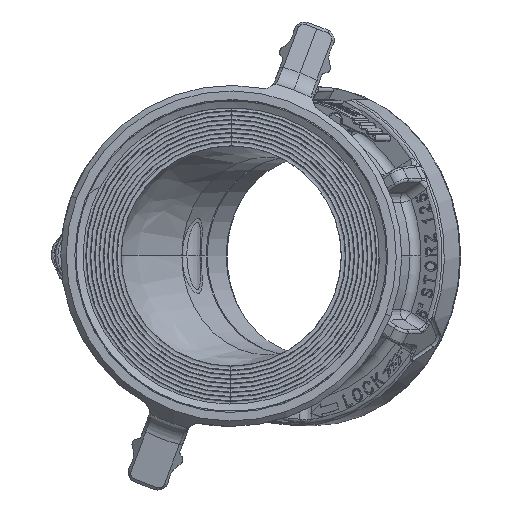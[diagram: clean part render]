
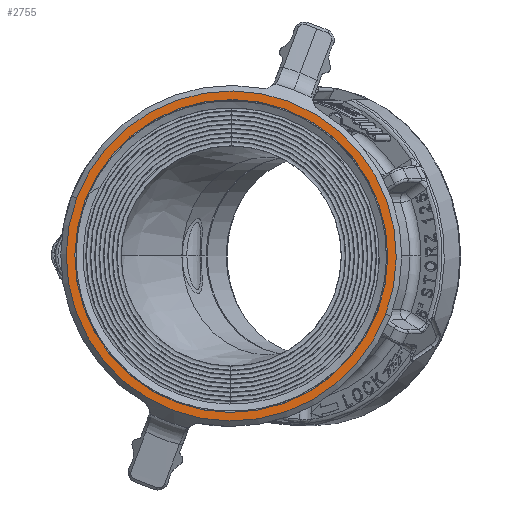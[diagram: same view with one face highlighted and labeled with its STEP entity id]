
A CAD part, left-side view. The second image highlights one B-rep face of the part: STEP entity #2755.
In plain terms, the highlighted planar face has unit normal (-1, 0, 0).
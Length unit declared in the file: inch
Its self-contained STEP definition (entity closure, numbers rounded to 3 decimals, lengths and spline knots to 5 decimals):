
#2755 = ADVANCED_FACE ( 'NONE', ( #75872, #75878 ), #13182, .F. ) ;
#5798 = CARTESIAN_POINT ( 'NONE',  ( -2.97918, 1.25303, -3.32685 ) ) ;
#5825 = CARTESIAN_POINT ( 'NONE',  ( -2.97918, -3.50934, -1.32176 ) ) ;
#5852 = CARTESIAN_POINT ( 'NONE',  ( -2.97918, 3.50934, 1.32176 ) ) ;
#5873 = CARTESIAN_POINT ( 'NONE',  ( -2.97918, -1.25303, 3.32685 ) ) ;
#9366 = CIRCLE ( 'NONE', #14786, 3.75 ) ;
#9393 = CIRCLE ( 'NONE', #14790, 3.555 ) ;
#13176 = CARTESIAN_POINT ( 'NONE',  ( -2.97918, -2.10977, 3.54464 ) ) ;
#13182 = PLANE ( 'NONE',  #52522 ) ;
#13185 = DIRECTION ( 'NONE',  ( 1., 0., 0. ) ) ;
#13187 = DIRECTION ( 'NONE',  ( 0., -0.352, 0.936 ) ) ;
#14702 = AXIS2_PLACEMENT_3D ( 'NONE', #53933, #53934, #53935 ) ;
#14703 = AXIS2_PLACEMENT_3D ( 'NONE', #53937, #53938, #53939 ) ;
#14786 = AXIS2_PLACEMENT_3D ( 'NONE', #18508, #18509, #18510 ) ;
#14790 = AXIS2_PLACEMENT_3D ( 'NONE', #18557, #18558, #18559 ) ;
#16223 = CIRCLE ( 'NONE', #14702, 3.555 ) ;
#16224 = CIRCLE ( 'NONE', #14703, 3.75 ) ;
#18508 = CARTESIAN_POINT ( 'NONE',  ( -2.97918, 0., 0. ) ) ;
#18509 = DIRECTION ( 'NONE',  ( 1., 0., 0. ) ) ;
#18510 = DIRECTION ( 'NONE',  ( 0., -0.936, -0.352 ) ) ;
#18557 = CARTESIAN_POINT ( 'NONE',  ( -2.97918, 0., 0. ) ) ;
#18558 = DIRECTION ( 'NONE',  ( -1., 0., 0. ) ) ;
#18559 = DIRECTION ( 'NONE',  ( 0., -0.352, 0.936 ) ) ;
#46709 = ORIENTED_EDGE ( 'NONE', *, *, #67127, .F. ) ;
#46711 = ORIENTED_EDGE ( 'NONE', *, *, #66399, .F. ) ;
#46713 = ORIENTED_EDGE ( 'NONE', *, *, #67147, .F. ) ;
#46715 = ORIENTED_EDGE ( 'NONE', *, *, #66396, .F. ) ;
#52522 = AXIS2_PLACEMENT_3D ( 'NONE', #13176, #13185, #13187 ) ;
#53933 = CARTESIAN_POINT ( 'NONE',  ( -2.97918, 0., 0. ) ) ;
#53934 = DIRECTION ( 'NONE',  ( -1., 0., 0. ) ) ;
#53935 = DIRECTION ( 'NONE',  ( 0., -0.352, 0.936 ) ) ;
#53937 = CARTESIAN_POINT ( 'NONE',  ( -2.97918, 0., 0. ) ) ;
#53938 = DIRECTION ( 'NONE',  ( 1., 0., 0. ) ) ;
#53939 = DIRECTION ( 'NONE',  ( 0., -0.936, -0.352 ) ) ;
#62307 = VERTEX_POINT ( 'NONE', #5798 ) ;
#62334 = VERTEX_POINT ( 'NONE', #5825 ) ;
#62361 = VERTEX_POINT ( 'NONE', #5852 ) ;
#62382 = VERTEX_POINT ( 'NONE', #5873 ) ;
#66396 = EDGE_CURVE ( 'NONE', #62307, #62382, #16223, .T. ) ;
#66399 = EDGE_CURVE ( 'NONE', #62361, #62334, #16224, .T. ) ;
#67127 = EDGE_CURVE ( 'NONE', #62334, #62361, #9366, .T. ) ;
#67147 = EDGE_CURVE ( 'NONE', #62382, #62307, #9393, .T. ) ;
#72070 = EDGE_LOOP ( 'NONE', ( #46713, #46715 ) ) ;
#72091 = EDGE_LOOP ( 'NONE', ( #46709, #46711 ) ) ;
#75872 = FACE_OUTER_BOUND ( 'NONE', #72091, .T. ) ;
#75878 = FACE_BOUND ( 'NONE', #72070, .T. ) ;
